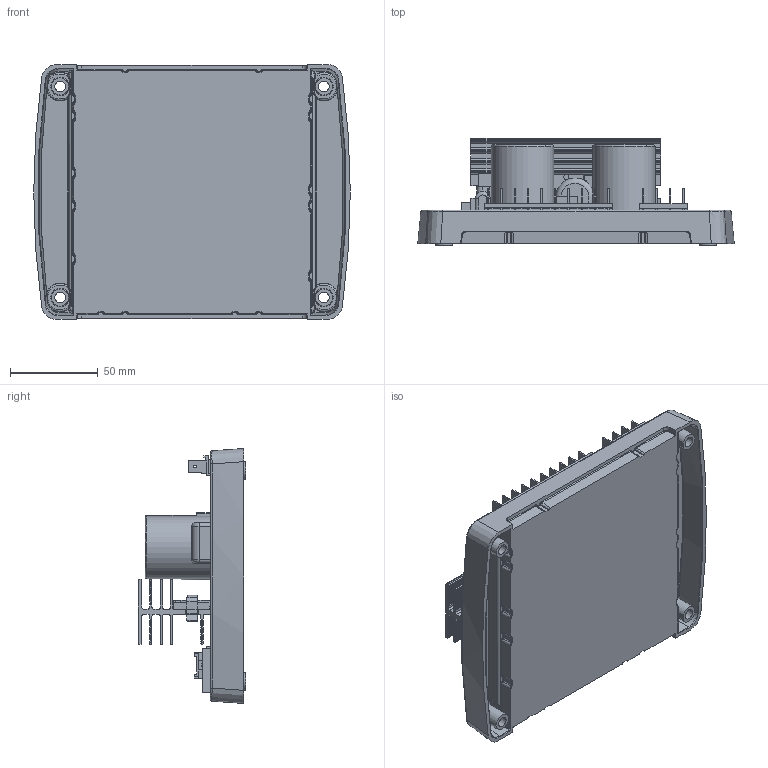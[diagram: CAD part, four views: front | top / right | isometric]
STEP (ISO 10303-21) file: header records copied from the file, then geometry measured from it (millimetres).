
FILE_DESCRIPTION (( 'STEP AP214' ), '1' );
FILE_NAME ('DSE-A109.STEP', '2019-01-18T13:52:18', ( '' ), ( '' ), 'SwSTEP 2.0', 'SolidWorks 2018', '' );
FILE_SCHEMA (( 'AUTOMOTIVE_DESIGN' ));
Length unit declared in the file: millimetre
Products named in the file (1): DSE-A109
Bounding box: 180 x 60.92 x 145 mm (x, y, z)
Volume: 480735.3 mm3; surface area: 145104.4 mm2
Topology: 1 solids, 3 shells, 2891 faces, 8188 edges, 5264 vertices
Faces by surface type: plane 1532, cylinder 982, bspline 272, torus 44, sphere 40, cone 21
Full cylindrical faces by diameter (mm): 1.5 x14, 1.8 x2, 2.5 x2, 3 x28, 3.65 x2, 4.2 x1, 5 x1, 8 x3, 10 x1, 11 x4, 25.4 x2, 35.56 x2
Entity records: 108377 total; most frequent: CARTESIAN_POINT 30628, ORIENTED_EDGE 16080, DIRECTION 14719, EDGE_CURVE 8040, VERTEX_POINT 5240, LINE 5199, VECTOR 5199, AXIS2_PLACEMENT_3D 4760
